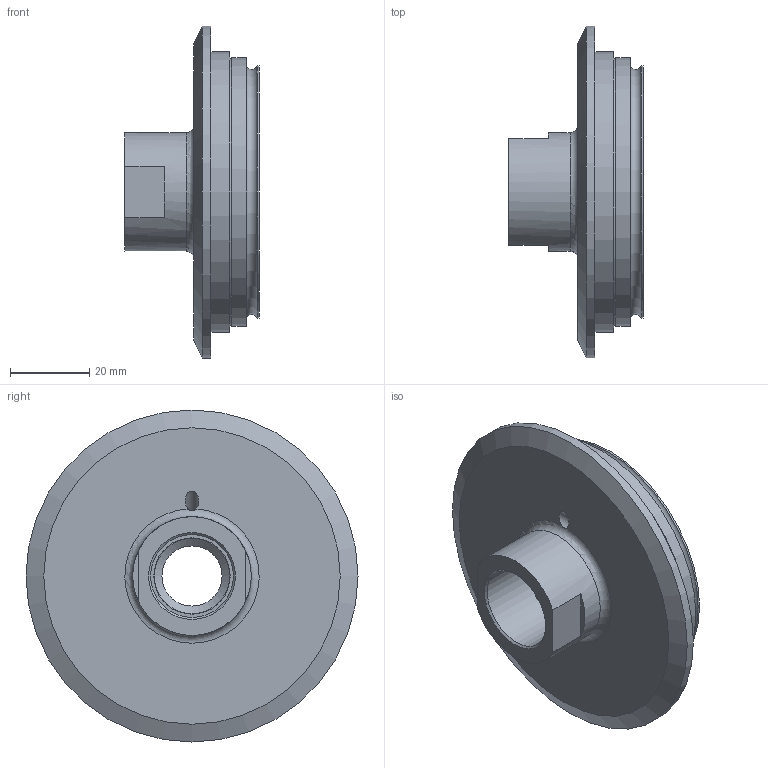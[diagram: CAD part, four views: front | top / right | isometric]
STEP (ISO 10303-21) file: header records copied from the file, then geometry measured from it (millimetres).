
FILE_DESCRIPTION( ( 'Unknown' ), '1' );
FILE_NAME( 'F:/U_Proces/dokumentation new/Mechanical parts/7000 3D Step filer/7000-/7000145/VAM023.stp', 'Unknown', ( 'Unknown' ), ( 'Unknown' ), 'PSStep 13.0', 'Unknown', ' ' );
FILE_SCHEMA( ( 'AUTOMOTIVE_DESIGN { 1 0 10303 214 1 1 1 1 }' ) );
Length unit declared in the file: millimetre
Products named in the file (1): 1
Bounding box: 34 x 84 x 84 mm (x, y, z)
Surface area: 17992.8 mm2 (no closed solid volume)
Topology: 0 solids, 27 shells, 27 faces, 92 edges, 77 vertices
Faces by surface type: plane 12, cylinder 9, cone 3, torus 3
Full cylindrical faces by diameter (mm): 3.5 x1, 19.1 x1, 19.3 x1, 20.96 x1, 30 x1, 64 x1, 68 x1, 71 x1, 84 x1
Entity records: 1248 total; most frequent: CARTESIAN_POINT 296, DIRECTION 176, AXIS2_PLACEMENT_3D 80, ORIENTED_EDGE 72, EDGE_CURVE 72, VERTEX_POINT 72, FACE_BOUND 51, EDGE_LOOP 51
